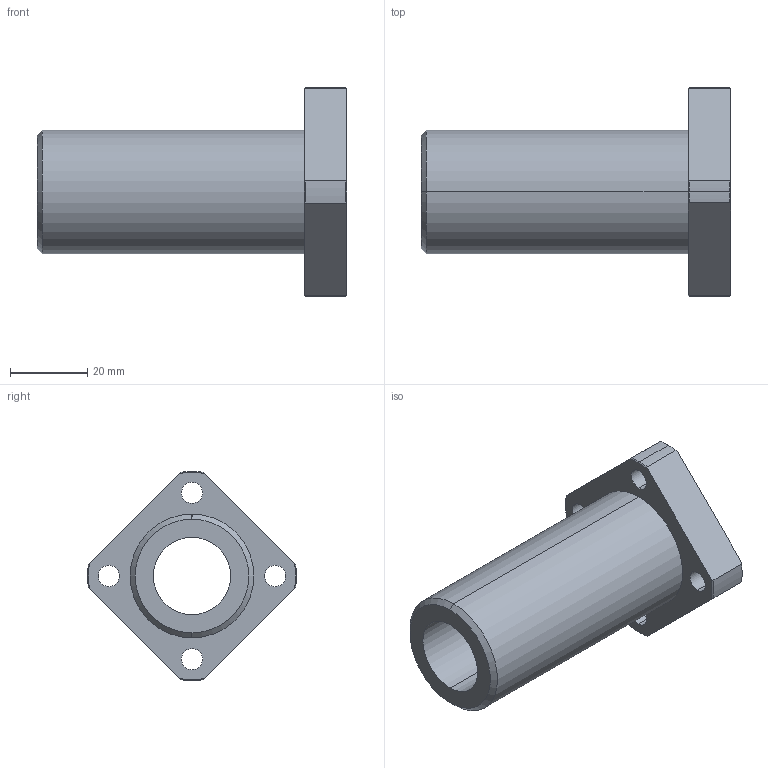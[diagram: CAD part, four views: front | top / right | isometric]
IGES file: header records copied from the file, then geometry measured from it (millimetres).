
Start section: 3D InterOp IGES (Version 21 0 1), Spatial Corp. Copyright (c) 1999-2007.
Global section: file name: DFPJ20.igs; native system: Spatial Corp.; preprocessor: 3D InterOp GENERIC/IGES 3.0; author: Noname; organization: Noname; date: 20220324.140453; units: millimetre
Bounding box: 80 x 53.97 x 54 mm (x, y, z)
Surface area: 17255.5 mm2 (no closed solid volume)
Topology: 0 solids, 0 shells, 48 faces, 240 edges, 240 vertices
Faces by surface type: revolution 37, extrusion 11
